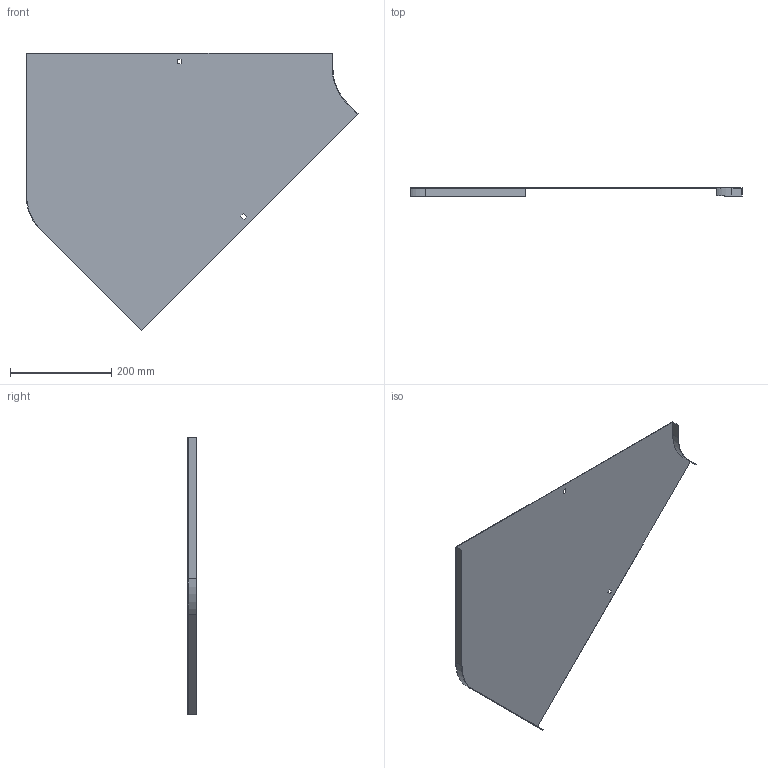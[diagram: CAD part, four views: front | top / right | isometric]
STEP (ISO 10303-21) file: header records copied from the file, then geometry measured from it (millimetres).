
FILE_DESCRIPTION (( 'STEP AP214' ), '1' );
FILE_NAME ('11G1P600.step', '2025-02-21T12:46:11', ( '' ), ( '' ), 'SwSTEP 2.0', 'SolidWorks 2023', '' );
FILE_SCHEMA (( 'AUTOMOTIVE_DESIGN' ));
Length unit declared in the file: millimetre
Products named in the file (1): 11G1P600
Bounding box: 656.77 x 16.5 x 549.37 mm (x, y, z)
Volume: 249956.3 mm3; surface area: 502026.4 mm2
Topology: 1 solids, 1 shells, 26 faces, 72 edges, 48 vertices
Faces by surface type: plane 22, cylinder 4
Entity records: 855 total; most frequent: CARTESIAN_POINT 147, ORIENTED_EDGE 144, DIRECTION 134, EDGE_CURVE 72, LINE 64, VECTOR 64, VERTEX_POINT 48, AXIS2_PLACEMENT_3D 35
